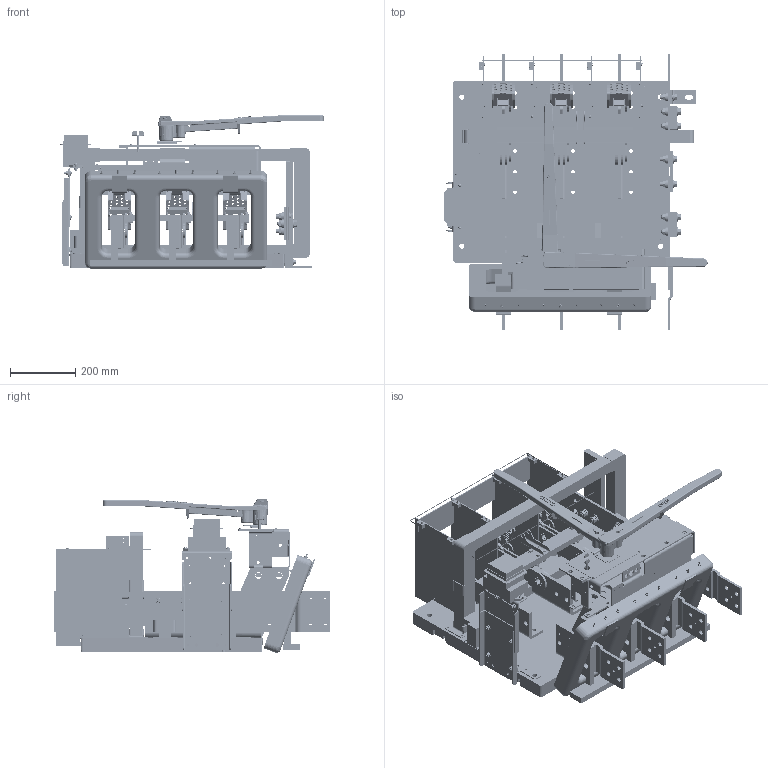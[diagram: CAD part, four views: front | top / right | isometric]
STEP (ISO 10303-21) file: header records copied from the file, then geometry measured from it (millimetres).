
FILE_DESCRIPTION(/* description */ (''),/* implementation_level */ '2;1');
FILE_NAME(/* name */ 'H:\switches\3d-templates\catalog-switches-iges-files\CATALOG-VL368AG60.stp',/* time_stamp */ '2022-03-22T16:30:01-05:00',/* author */ ('MKingston'),/* organization */ (''),/* preprocessor_version */ 'ST-DEVELOPER v18.1',/* originating_system */ 'Autodesk Inventor 2022',/* authorisation */ '');
FILE_SCHEMA (('AUTOMOTIVE_DESIGN { 1 0 10303 214 3 1 1 }'));
Products named in the file (99): catalog-vl368; 277; 668-D; 668-E; 668-C; 223-d-transparent; catalog-368-blade-assy; 67-AL; 67-AR; 67-fc3; 67-gc3; 235-b; 230-a; catalog-arc-chute-assy; 50-QRX; 50-QLX; 56-QJT; 56-QJB; 56-QJS; 57-QJSB; 57-QJST; 363-da; 363-db; 246-a; 255-z; 255-bha; 178-c; 178-b; 255-c; gfi-ring-assembly; GFS10X24; 277-ma; gfr-1-mounting-assembly; 277-L1T; 277-l2; 277-l3; 277-l4; gfr-1; Bolted Connection; ANSI B18.6.3 - 10 - 32 x 7/8 SR HMS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
Assembly tree (283 placements, depth 4):
  catalog-vl368
    277
    668-D  x3
    668-E  x3
    668-C  x3
    223-d-transparent
    catalog-368-blade-assy  x3
      67-AL
      67-AR
      67-fc3
      67-gc3
    235-b
    230-a
    catalog-arc-chute-assy  x3
      50-QRX
      50-QLX
      56-QJT
      56-QJB
      56-QJS
      57-QJSB
      57-QJST
      363-da
      363-db
    246-a  x2
    178-b  x8
    255-z
    255-bha  x4
    178-c  x8
    255-c
    gfi-ring-assembly
      GFS10X24
      277-ma
    gfr-1-mounting-assembly
      277-L1T
      277-l2
      277-l3
      277-l4
      gfr-1
      Bolted Connection
        ANSI B18.22.1 - No. 10 - Type A  x4
        ASME B18.21.1 - No. 10. Carbon Steel, ETLWTB(1)  x4
        ANSI B18.6.3 - 10 - 32 x 7/8 SR HMS  x2
        ANSI B18.2.2 - 10 - 32, HMSNI  x2
      Bolted Connection_1
        ANSI B18.5 - 1/4-20 UNC - 0.75, RHBI  x6
        ASTM F436 - 1/4, CW  x6
        ASME B18.21.1 - 1/4. Carbon Steel, HITLWTB(1)  x6
        ANSI B18.2.2 - 1/4 - 20, HNI  x6
    transformer
    800-bck2
    800-fck-1
    221-kpa
    452
    481-a
    1200-VL-NEUTRAL
      675-a
      675-df  x2
      676-k  x2
      677-e
      678-r
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Bounding box: 807.14 x 849.16 x 470.98 mm (x, y, z)
Volume: 28079841.7 mm3; surface area: 5551226.7 mm2
Topology: 326 solids, 327 shells, 9348 faces, 23509 edges, 15177 vertices
Faces by surface type: plane 4883, cylinder 2771, cone 898, bspline 465, sphere 200, torus 131
Full cylindrical faces by diameter (mm): 1.702 x8, 3.175 x4, 3.302 x2, 3.581 x2, 3.683 x8, 3.759 x12, 3.81 x9, 3.962 x11, 4.089 x4, 4.166 x32, 4.191 x9, 4.293 x9, 4.305 x42, 4.366 x2, 4.496 x24, 4.572 x9, 4.653 x4, 4.762 x4, 4.775 x8, 4.801 x8, 4.826 x2, 4.902 x8, 4.915 x24, 4.953 x4, 4.978 x11, 5.462 x4, 5.537 x3, 5.556 x5, 5.563 x4, 5.791 x6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
Entity records: 139344 total; most frequent: CARTESIAN_POINT 33974, DIRECTION 21237, ORIENTED_EDGE 20706, EDGE_CURVE 10361, AXIS2_PLACEMENT_3D 7499, VERTEX_POINT 6682, LINE 6239, VECTOR 6239
